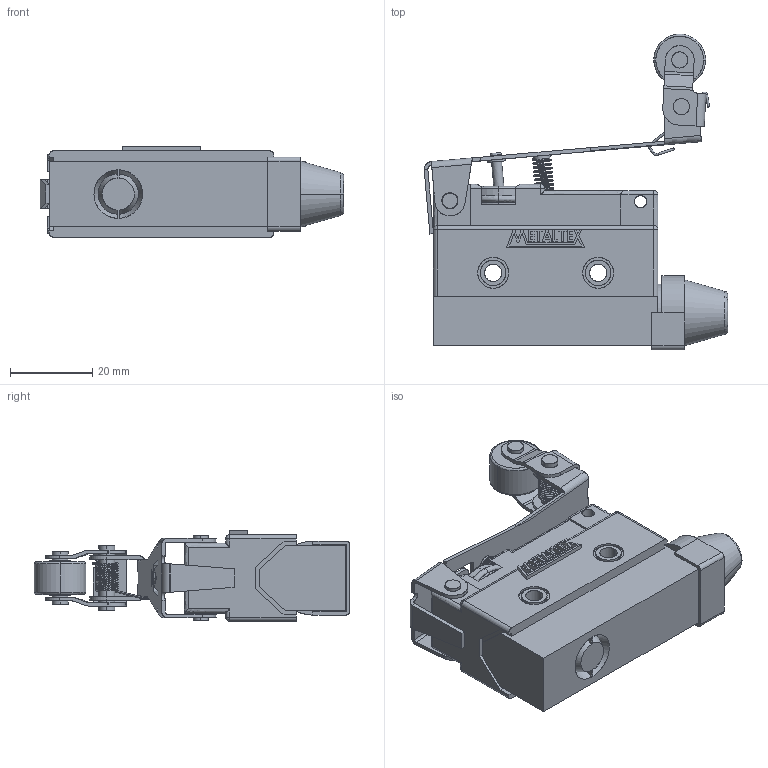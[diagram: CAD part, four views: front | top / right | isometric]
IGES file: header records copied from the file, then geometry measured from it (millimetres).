
Start section: SolidWorks IGES file using analytic representation for surfaces
Global section: file name: D:\X - Arquivos\PROEX\Empresas\P11 - METALTEX\01 - Produtos\IGES\4ª remessa\1ª etapa\FM7124.IGS; native system: SolidWorks 2012; preprocessor: SolidWorks 2012; author: Usuario; date: 180323.101809; units: millimetre
Bounding box: 73.76 x 76.71 x 22 mm (x, y, z)
Surface area: 15564.8 mm2 (no closed solid volume)
Topology: 0 solids, 0 shells, 503 faces, 6156 edges, 6127 vertices
Faces by surface type: bspline 317, revolution 186
